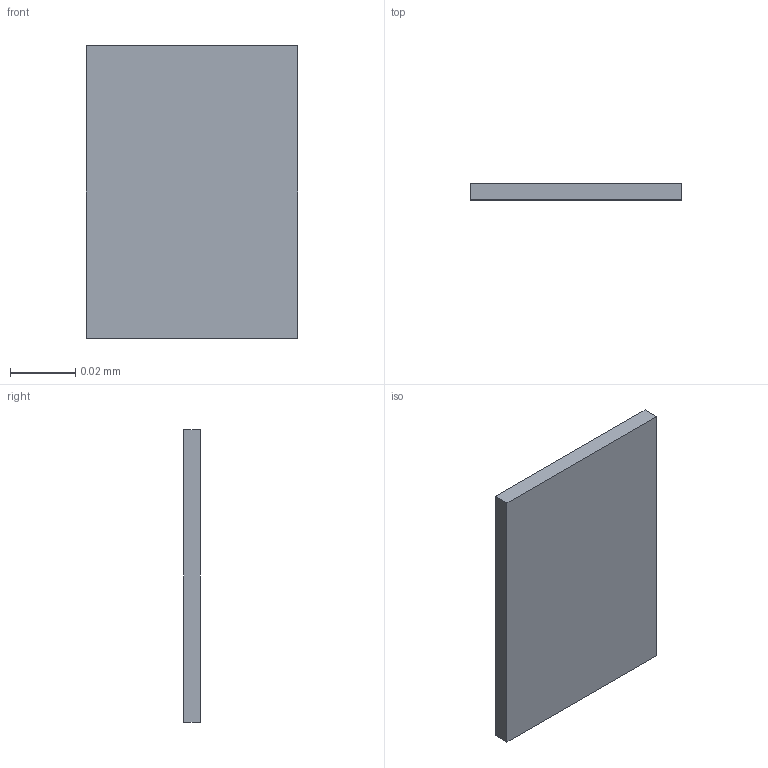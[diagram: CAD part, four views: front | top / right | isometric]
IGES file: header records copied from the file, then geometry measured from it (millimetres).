
Start section: DESIGNBASE IGES
Global section: file name: D:\CAD\FEM\MagTest\LearningTest1\static\al.igs; native system: RICOH DESIGNBASE V13; preprocessor: IGES PREPROCESSOR V13; author: unknown; organization: unknown; date: 20150724.223551; units: millimetre
Bounding box: 0.07 x 0.01 x 0.09 mm (x, y, z)
Volume: 0 mm3; surface area: 0 mm2
Topology: 1 solids, 1 shells, 6 faces, 12 edges, 8 vertices
Faces by surface type: bspline 6
